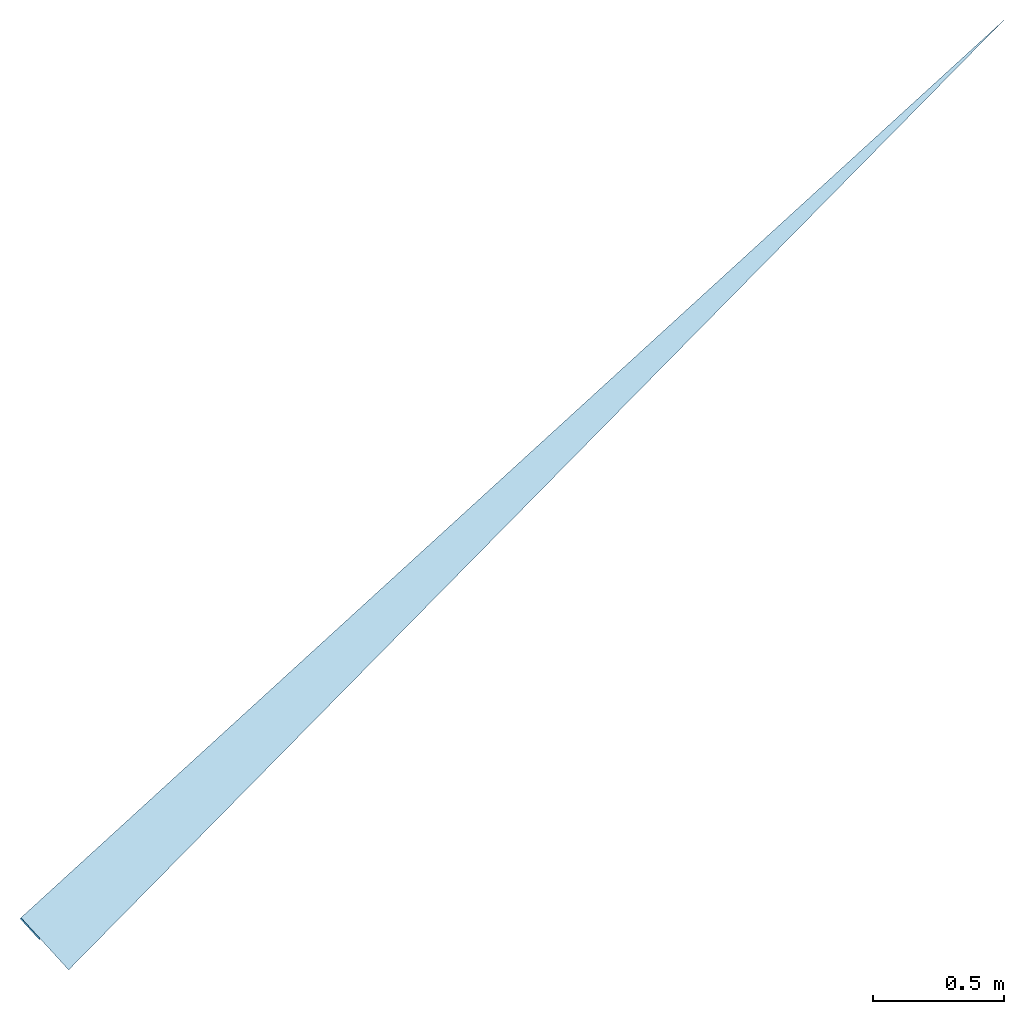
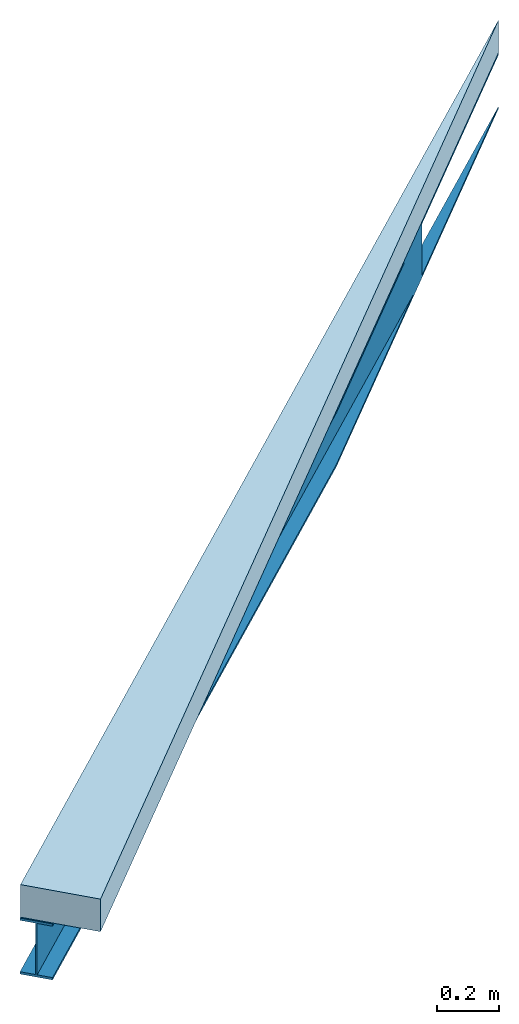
# One storey: 1 beam, 1 slab.
"""IFC2X3 building model written with IfcOpenShell, lengths in millimetres."""

import ifcopenshell
import ifcopenshell.guid

model = None  # the IFC model being written
_history = None  # IfcOwnerHistory: only IFC2X3 demands one
_inside = {}  # id of a spatial element -> (the spatial element, [elements in it])
_under = {}  # id of a project, library or spatial element -> (it, [spatial elements below it])
_declared = {}  # id of a project -> (the project, [libraries it declares])
_typed = {}  # id of a type object -> (the type object, [elements of that type])
_made_of = {}  # id of a material, layer set ... -> (it, [elements and type objects made of it])


def new_model(schema):
    """Start an empty IFC model of exactly this schema.

    Asked for "IFC4X3", IfcOpenShell would pick the latest addendum, in which some entities
    have other attributes; the version numbers below select the first issue.
    IFC2X3 requires an IfcOwnerHistory on every rooted entity: one is made here for all.
    """
    global model, _history
    if schema == "IFC4X3":
        model = ifcopenshell.file(schema_version=(4, 3, 0, 0))
    else:
        model = ifcopenshell.file(schema=schema)
    _inside.clear()
    _under.clear()
    _declared.clear()
    _typed.clear()
    _made_of.clear()
    _history = None
    if model.schema == "IFC2X3":
        org = make("IfcOrganization", Name="unknown")
        user = make(
            "IfcPersonAndOrganization",
            ThePerson=make("IfcPerson", FamilyName="unknown"),
            TheOrganization=org,
        )
        app = make(
            "IfcApplication",
            ApplicationDeveloper=org,
            Version="unknown",
            ApplicationFullName="unknown",
            ApplicationIdentifier="unknown",
        )
        _history = make(
            "IfcOwnerHistory",
            OwningUser=user,
            OwningApplication=app,
            ChangeAction="ADDED",
            CreationDate=0,
        )
    return model


def make(cls, **values):
    """One entity of the class cls with the attributes given. An attribute that is None is left unset."""
    return model.create_entity(
        cls, **{name: value for name, value in values.items() if value is not None}
    )


def entity(cls, *values):
    """Any entity or typed value of the class cls, its attributes in the order of the schema. None: left unset."""
    e = model.create_entity(cls)
    for i, value in enumerate(values):
        if value is not None:
            e[i] = value
    return e


def rooted(cls, **values):
    """An entity with a GlobalId (a new one), such as an element, a storey or a relation."""
    return make(cls, GlobalId=ifcopenshell.guid.new(), OwnerHistory=_history, **values)


def si_unit(unit_type, name, prefix=None):
    """IfcSIUnit, for example si_unit("LENGTHUNIT", "METRE", prefix="MILLI")."""
    return make("IfcSIUnit", UnitType=unit_type, Prefix=prefix, Name=name)


def converted_unit(unit_type, name, factor, base, dimensions=None, offset=None):
    """IfcConversionBasedUnit, such as the inch: factor (a typed value) times the base unit."""
    return make(
        "IfcConversionBasedUnit"
        if offset is None
        else "IfcConversionBasedUnitWithOffset",
        ConversionOffset=offset,
        Dimensions=None
        if dimensions is None
        else entity("IfcDimensionalExponents", *dimensions),
        UnitType=unit_type,
        Name=name,
        ConversionFactor=make(
            "IfcMeasureWithUnit", ValueComponent=factor, UnitComponent=base
        ),
    )


def derived_unit(unit_type, elements):
    """IfcDerivedUnit: a product of units, each with its exponent."""
    return make(
        "IfcDerivedUnit",
        Elements=[
            make("IfcDerivedUnitElement", Unit=unit, Exponent=power)
            for unit, power in elements
        ],
        UnitType=unit_type,
    )


def assignment(units):
    """IfcUnitAssignment: the units of a project."""
    return None if units is None else make("IfcUnitAssignment", Units=units)


def point(xyz):
    """IfcCartesianPoint."""
    return None if xyz is None else make("IfcCartesianPoint", Coordinates=xyz)


def direction(xyz):
    """IfcDirection."""
    return None if xyz is None else make("IfcDirection", DirectionRatios=xyz)


def frame(location, z_axis=None, x_axis=None):
    """IfcAxis2Placement3D, a coordinate frame: its origin and axes. An axis left out is left unset."""
    return make(
        "IfcAxis2Placement3D",
        Location=point(location),
        Axis=direction(z_axis),
        RefDirection=direction(x_axis),
    )


def origin():
    """The frame at (0, 0, 0) with its axes left unset."""
    return frame((0.0, 0.0, 0.0))


def origin_with_axes():
    """The frame at (0, 0, 0) with the z axis (0, 0, 1) and the x axis (1, 0, 0) written out."""
    return frame((0.0, 0.0, 0.0), z_axis=(0.0, 0.0, 1.0), x_axis=(1.0, 0.0, 0.0))


def place(relative_to, where):
    """IfcLocalPlacement: puts the frame where relative to a parent placement (None: the world)."""
    return make(
        "IfcLocalPlacement", PlacementRelTo=relative_to, RelativePlacement=where
    )


def context(
    kind, dimensions, precision=None, world=None, true_north=None, identifier=None
):
    """IfcGeometricRepresentationContext, for example the 3D "Model" context."""
    return make(
        "IfcGeometricRepresentationContext",
        ContextIdentifier=identifier,
        ContextType=kind,
        CoordinateSpaceDimension=dimensions,
        Precision=precision,
        WorldCoordinateSystem=world,
        TrueNorth=true_north,
    )


def subcontext(parent, identifier, kind, view, scale=None):
    """IfcGeometricRepresentationSubContext, for example "Body" below "Model"."""
    return make(
        "IfcGeometricRepresentationSubContext",
        ContextIdentifier=identifier,
        ContextType=kind,
        ParentContext=parent,
        TargetScale=scale,
        TargetView=view,
    )


def project(units=None, contexts=None):
    """IfcProject with its units and contexts."""
    return rooted(
        "IfcProject",
        Name="project",
        RepresentationContexts=contexts,
        UnitsInContext=assignment(units),
    )


def spatial(cls, under=None, at=None, **own):
    """A site, building, storey or space (cls), placed at a placement, below another one or the project."""
    s = rooted(cls, ObjectPlacement=at, **own)
    if under is not None:
        _under.setdefault(under.id(), (under, []))[1].append(s)
    return s


def faces_of(points, faces, orient=None, outer=None):
    """IfcFace entities. A face is a list of loops; a loop is a list of indices into points, from 0.

    orient and outer hold one flag for each loop. By default every Orientation is true, the
    first loop of a face is its IfcFaceOuterBound and the others are IfcFaceBound.
    """
    made = []
    for i, loops in enumerate(faces):
        bounds = []
        for j, loop in enumerate(loops):
            is_outer = j == 0 if outer is None else outer[i][j]
            bounds.append(
                make(
                    "IfcFaceOuterBound" if is_outer else "IfcFaceBound",
                    Bound=make("IfcPolyLoop", Polygon=[points[k] for k in loop]),
                    Orientation=True if orient is None else orient[i][j],
                )
            )
        made.append(make("IfcFace", Bounds=bounds))
    return made


def faceted_brep(points, faces, orient=None, outer=None, voids=None):
    """IfcFacetedBrep: a solid bounded by flat faces; with voids (closed shells), ...WithVoids."""
    shared = [point(p) for p in points]
    hull = make("IfcClosedShell", CfsFaces=faces_of(shared, faces, orient, outer))
    if voids is None:
        return make("IfcFacetedBrep", Outer=hull)
    return make(
        "IfcFacetedBrepWithVoids",
        Outer=hull,
        Voids=[
            make(cls, CfsFaces=faces_of(shared, fs, o, b)) for cls, fs, o, b in voids
        ],
    )


def shape(context_of_items, identifier, shape_type, items):
    """IfcShapeRepresentation: the items that make up one representation, for example the "Body"."""
    return make(
        "IfcShapeRepresentation",
        ContextOfItems=context_of_items,
        RepresentationIdentifier=identifier,
        RepresentationType=shape_type,
        Items=items,
    )


def material(Name=None, Category=None):
    """IfcMaterial."""
    return make("IfcMaterial", Name=Name, Category=Category)


def layer(
    of_material, thickness, ventilated=None, Name=None, Category=None, Priority=None
):
    """IfcMaterialLayer: one layer of a wall or slab, of a material (None: an air gap)."""
    return make(
        "IfcMaterialLayer",
        Material=of_material,
        LayerThickness=thickness,
        IsVentilated=ventilated,
        Name=Name,
        Category=Category,
        Priority=Priority,
    )


def layer_set(layers, Name=None):
    """IfcMaterialLayerSet."""
    return make("IfcMaterialLayerSet", MaterialLayers=layers, LayerSetName=Name)


def made_of(thing, what):
    """Note that an element or type object is made of a material, layer set ...; save() writes the relation."""
    if what is not None:
        _made_of.setdefault(what.id(), (what, []))[1].append(thing)
    return thing


def type_object(cls, material=None, **own):
    """A type object (cls), such as IfcWallType, which elements share."""
    return made_of(rooted(cls, **own), material)


def element(
    cls,
    number,
    at=None,
    inside=None,
    cuts=None,
    type_object=None,
    material=None,
    context=None,
    identifier="Body",
    shape_type=None,
    held_by="IfcProductDefinitionShape",
    body=None,
    shapes=None,
    **own,
):
    """One element of the class cls, such as IfcWall. Its Tag is "e" and its number.

    at: its placement. inside: the storey or other place that contains it. cuts: it is an
    opening in that element (IfcRelVoidsElement). A single representation is given by context,
    identifier, shape_type and body (its items); several are given by shapes. held_by: the class
    of the entity that holds the representations. save() writes the other relations.
    """
    e = rooted(cls, Tag="e%d" % number, ObjectPlacement=at, **own)
    if body is not None:
        shapes = [shape(context, identifier, shape_type, body)]
    if shapes is not None:
        e.Representation = make(held_by, Representations=shapes)
    if inside is not None:
        _inside.setdefault(inside.id(), (inside, []))[1].append(e)
    if cuts is not None:
        rooted(
            "IfcRelVoidsElement", RelatingBuildingElement=cuts, RelatedOpeningElement=e
        )
    if type_object is not None:
        _typed.setdefault(type_object.id(), (type_object, []))[1].append(e)
    return made_of(e, material)


def aggregate(whole, parts):
    """IfcRelAggregates: a whole, such as a stair, and the parts it consists of."""
    return rooted("IfcRelAggregates", RelatingObject=whole, RelatedObjects=parts)


def save(model, path):
    """Write the relations noted so far, then the file.

    IfcRelAggregates (storeys below a building ...), IfcRelContainedInSpatialStructure (elements
    in a storey), IfcRelDefinesByType, IfcRelAssociatesMaterial and IfcRelDeclares: one each for
    every whole, place, type object, material and project.
    """
    for whole, parts in _under.values():
        aggregate(whole, parts)
    for where, things in _inside.values():
        rooted(
            "IfcRelContainedInSpatialStructure",
            RelatedElements=things,
            RelatingStructure=where,
        )
    for kind, things in _typed.values():
        rooted("IfcRelDefinesByType", RelatedObjects=things, RelatingType=kind)
    for what, things in _made_of.values():
        rooted("IfcRelAssociatesMaterial", RelatedObjects=things, RelatingMaterial=what)
    for by, libraries in _declared.values():
        rooted("IfcRelDeclares", RelatingContext=by, RelatedDefinitions=libraries)
    model.write(path)


model = new_model("IFC2X3")

# Units and contexts
model_context = context("Model", 3, precision=0.01, world=origin(), true_north=direction((6.12323399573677e-17, 1.0)))
plan_context = context("Plan", 3, precision=1e-05, world=origin_with_axes())
body_context = subcontext(model_context, "Body", "Model", "MODEL_VIEW")
ifc_project = project(units=[converted_unit("PLANEANGLEUNIT", "DEGREE", entity("IfcPositiveLengthMeasure", 0.0174532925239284), si_unit("PLANEANGLEUNIT", "RADIAN"), dimensions=[0, 0, 0, 0, 0, 0, 0]), si_unit("AREAUNIT", "SQUARE_METRE"), si_unit("LENGTHUNIT", "METRE", prefix="MILLI"), si_unit("MASSUNIT", "GRAM", prefix="KILO"), si_unit("POWERUNIT", "WATT"), si_unit("PRESSUREUNIT", "PASCAL", prefix="KILO"), si_unit("FORCEUNIT", "NEWTON", prefix="KILO"), si_unit("ELECTRICVOLTAGEUNIT", "VOLT"), si_unit("ELECTRICCURRENTUNIT", "AMPERE"), si_unit("THERMODYNAMICTEMPERATUREUNIT", "DEGREE_CELSIUS"), si_unit("TIMEUNIT", "SECOND"), si_unit("VOLUMEUNIT", "CUBIC_METRE"), derived_unit("LINEARVELOCITYUNIT", [(si_unit("LENGTHUNIT", "METRE"), 1), (si_unit("TIMEUNIT", "SECOND"), -1)]), derived_unit("VOLUMETRICFLOWRATEUNIT", [(si_unit("VOLUMEUNIT", "CUBIC_METRE"), 1), (si_unit("TIMEUNIT", "SECOND"), -1)]), derived_unit("THERMALTRANSMITTANCEUNIT", [(si_unit("POWERUNIT", "WATT"), 1), (si_unit("THERMODYNAMICTEMPERATUREUNIT", "KELVIN"), -1), (si_unit("AREAUNIT", "SQUARE_METRE"), -1)]), derived_unit("SOUNDPRESSUREUNIT", [(si_unit("PRESSUREUNIT", "PASCAL"), 1)])], contexts=[model_context, plan_context])

# Site, building, storey
site_placement = place(None, frame((0.0, 0.0, 0.0), z_axis=(0.0, 0.0, 1.0), x_axis=(0.214787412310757, -0.97666082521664, 0.0)))
site = spatial("IfcSite", under=ifc_project, at=site_placement, Name="Default", CompositionType="ELEMENT")
building_placement = place(site_placement, origin_with_axes())
building = spatial("IfcBuilding", under=site, at=building_placement, CompositionType="ELEMENT")
storey_placement = place(building_placement, frame((0.0, 0.0, 13200.0), z_axis=(0.0, 0.0, 1.0), x_axis=(1.0, 0.0, 0.0)))
storey = spatial("IfcBuildingStorey", under=building, at=storey_placement, Name="3. ETASJE", CompositionType="ELEMENT", Elevation=13199.9999999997)

# Beam
beam_type = type_object("IfcBeamType", Name="IPE-Beams:IPE220", PredefinedType="NOTDEFINED")
beam_placement = place(storey_placement, frame((-74427.8728271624, 311751.956241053, 72.0), z_axis=(0.0, 0.0, 1.0), x_axis=(0.50000000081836, -0.866025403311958, 0.0)))
element("IfcBeam", 1, at=beam_placement, inside=storey, type_object=beam_type, Name="IPE-Beams:IPE220", ObjectType="IPE-Beams:IPE220", context=body_context, shape_type="Brep", body=[
    faceted_brep([(22191.6919251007, 55.0000000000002, -219.999999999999), (20120.136983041, -54.9999999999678, -219.999999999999), (25210.0000010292, -54.9999999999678, -219.999999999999), (25210.0000010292, 55.0000000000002, -219.999999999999), (22191.6919251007, 55.0000000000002, -210.799999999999), (25210.0000010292, 55.0000000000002, -210.799999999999), (21211.4697911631, 2.95000000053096, -210.799999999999), (25210.0000010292, 2.95000000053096, -210.799999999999), (21211.4697911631, 2.95000000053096, -9.19999999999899), (25210.0000010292, 2.95000000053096, -9.19999999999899), (22191.6919251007, 55.0000000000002, -9.19999999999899), (25210.0000010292, 55.0000000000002, -9.19999999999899), (22191.6919251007, 55.0000000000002, 1.08002495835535e-12), (25210.0000010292, 55.0000000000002, 1.08002495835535e-12), (20120.136983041, -54.9999999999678, 1.08002495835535e-12), (25210.0000010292, -54.9999999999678, 1.08002495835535e-12), (20120.136983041, -54.9999999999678, -9.19999999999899), (25210.0000010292, -54.9999999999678, -9.19999999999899), (21100.3591169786, -2.95000000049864, -9.19999999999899), (25210.0000010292, -2.95000000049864, -9.19999999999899), (21100.3591169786, -2.95000000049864, -210.799999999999), (25210.0000010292, -2.95000000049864, -210.799999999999), (20120.136983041, -54.9999999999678, -210.799999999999), (25210.0000010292, -54.9999999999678, -210.799999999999)], [[[0, 1, 2, 3]], [[4, 0, 3, 5]], [[6, 4, 5, 7]], [[8, 6, 7, 9]], [[10, 8, 9, 11]], [[12, 10, 11, 13]], [[14, 12, 13, 15]], [[16, 14, 15, 17]], [[18, 16, 17, 19]], [[20, 18, 19, 21]], [[22, 20, 21, 23]], [[1, 22, 23, 2]], [[3, 2, 23, 21, 19, 17, 15, 13, 11, 9, 7, 5]], [[4, 6, 8, 10, 12, 14, 16, 18, 20, 22, 1, 0]]], orient=[[False], [False], [False], [False], [False], [False], [False], [False], [False], [False], [False], [False], [False], [False]]),
])

# Slab
ifc_material = material(Name="NO_Metall - Stål(2)")
ifc_layer = layer(ifc_material, 128.0)
ifc_layer_set = layer_set([ifc_layer], Name="Floor:Ståldekke 128")
slab_type = type_object("IfcSlabType", Name="Floor:Ståldekke 128", PredefinedType="FLOOR", material=ifc_layer_set)
slab_placement = place(storey_placement, frame((-74473.004224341, 289896.285948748, 72.0), z_axis=(0.0, 0.0, 1.0), x_axis=(1.0, 0.0, 0.0)))
element("IfcSlab", 2, at=slab_placement, inside=storey, type_object=slab_type, Name="Floor:Ståldekke 128", ObjectType="Floor:Ståldekke 128", PredefinedType="FLOOR", context=body_context, shape_type="Brep", body=[
    faceted_brep([(12833.8331922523, 135.003644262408, 128.0), (12833.8331922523, 135.003644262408, 9.9475983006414e-13), (12600.0000216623, -1.7811544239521e-08, 9.9475983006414e-13), (12600.0000216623, -1.7811544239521e-08, 128.0), (10057.5685079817, 4403.62054683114, 9.9475983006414e-13), (10057.5685079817, 4403.62054683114, 128.0)], [[[0, 1, 2, 3]], [[4, 5, 3, 2]], [[5, 0, 3]], [[1, 4, 2]], [[5, 4, 1, 0]]], orient=[[False], [False], [False], [False], [False]]),
])

save(model, "model.ifc")
